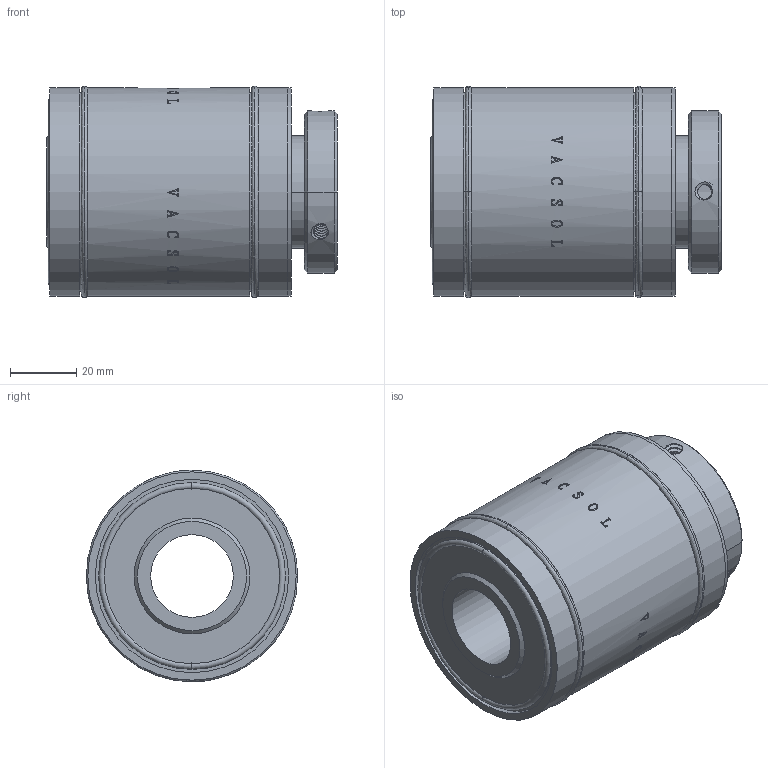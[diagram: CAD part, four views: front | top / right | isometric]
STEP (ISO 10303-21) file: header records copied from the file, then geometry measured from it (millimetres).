
FILE_DESCRIPTION(/* description */ (''),/* implementation_level */ '2;1');
FILE_NAME(/* name */ '15250.stp',/* time_stamp */ '2017-11-06T10:33:32+08:00',/* author */ (''),/* organization */ (''),/* preprocessor_version */ 'ST-DEVELOPER v16',/* originating_system */ 'SIEMENS PLM Software NX 10.0',/* authorisation */ '');
FILE_SCHEMA (('AP203_CONFIGURATION_CONTROLLED_3D_DESIGN_OF_MECHANICAL_PARTS_AND_ASSEMBLIES_MIM_LF { 1 0 10303 403 2 1 2}'));
Length unit declared in the file: millimetre
Products named in the file (1): Admi29E01994z4xt
Bounding box: 88 x 63.92 x 64 mm (x, y, z)
Volume: 206040.8 mm3; surface area: 36264.3 mm2
Topology: 4 solids, 4 shells, 420 faces, 1145 edges, 762 vertices
Faces by surface type: plane 168, extrusion 147, cylinder 79, bspline 17, cone 5, torus 4
Full cylindrical faces by diameter (mm): 4.485 x3, 25 x1, 26 x1, 53 x1, 58.5 x1, 63 x4
Entity records: 20685 total; most frequent: CARTESIAN_POINT 11286, ORIENTED_EDGE 2234, DIRECTION 1341, EDGE_CURVE 1117, VERTEX_POINT 751, B_SPLINE_CURVE_WITH_KNOTS 647, VECTOR 513, EDGE_LOOP 468
